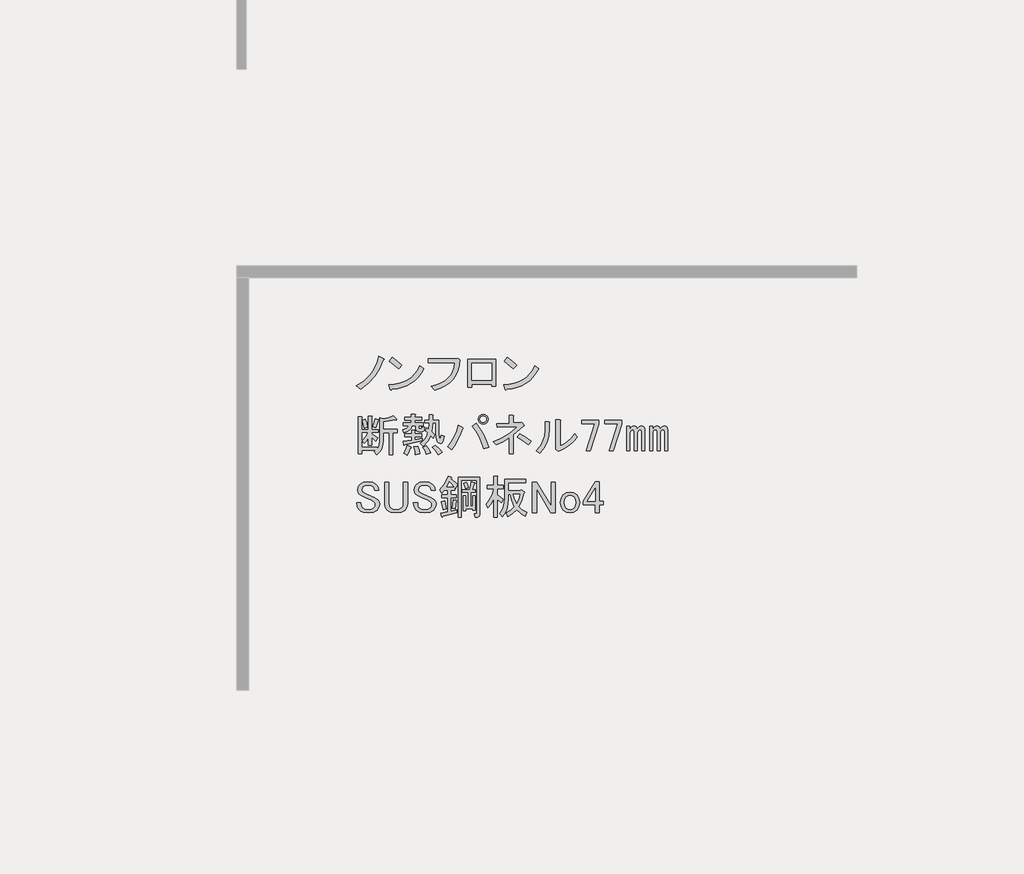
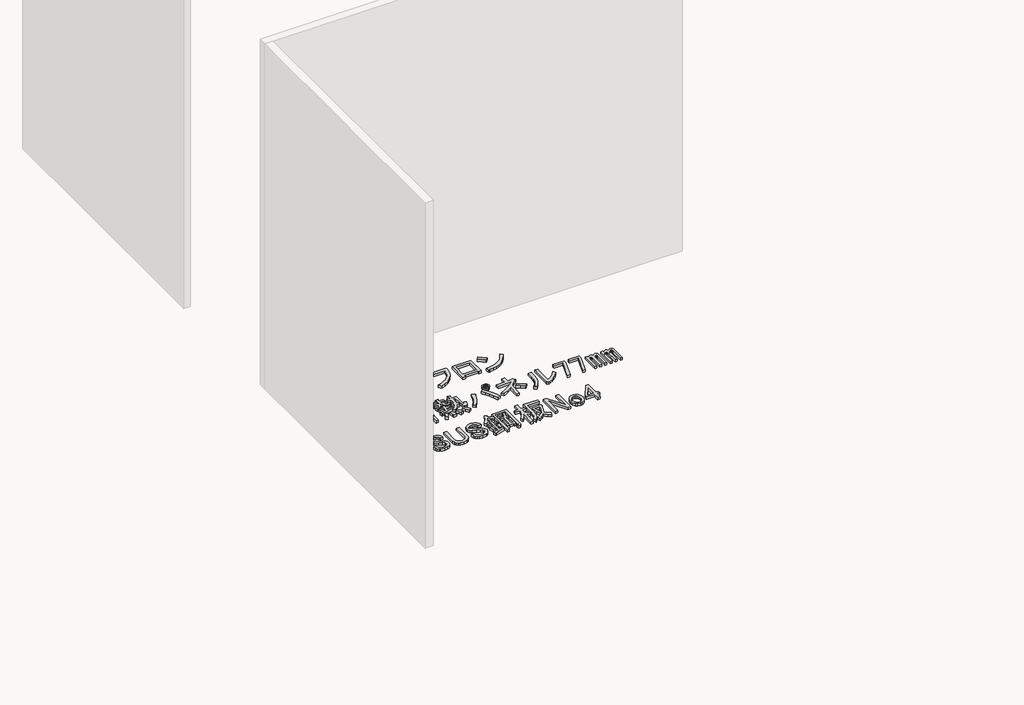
# One storey, part 49 of 117: 1 proxy.
"""IFC4 building model written with IfcOpenShell, lengths in millimetres."""

from ifc_helpers import new_model, si_unit, frame, origin, place, context, project, spatial, polyline, outline, extrude, element, save

model = new_model("IFC4")

# Units and contexts
model_context = context("Model", 3, world=origin())
ifc_project = project(units=[si_unit("LENGTHUNIT", "METRE", prefix="MILLI")], contexts=[model_context])

# Site, building, storey
site = spatial("IfcSite", under=ifc_project)
building = spatial("IfcBuilding", under=site)
storey = spatial("IfcBuildingStorey", under=building, Name="レベル 1", Elevation=500.0)

# Proxy
placement = place(None, origin())
element("IfcBuildingElementProxy", 1, Name="200㎜\u3000MS Pゴシック", ObjectType="200㎜\u3000MS Pゴシック", at=placement, inside=storey, context=model_context, shape_type="SweptSolid", body=[
    extrude(outline(polyline([(16943.6706985, -607.0496882), (16918.0952502, -666.8215225), (16889.646156, -712.7998566), (16847.9782907, -758.2034615), (16798.8389462, -795.560858), (16771.2519457, -773.7211493), (16818.9544673, -743.2605029), (16858.6107805, -704.7536481), (16875.9963381, -680.8305462), (16891.3703435, -652.7406577), (16904.7327969, -620.4839827), (16916.0836981, -584.0605212), (16947.1190736, -597.8540214), (16950.2800841, -602.4518548), (16943.6706985, -607.0496882)])), frame((0.0, 0.0, 500.0), z_axis=(0.0, 0.0, 1.0), x_axis=(1.0, 0.0, 0.0)), (0.0, 0.0, 1.0), 25.0),
    extrude(outline(polyline([(17043.3977052, -662.2236891), (16984.7753292, -615.0958967), (17004.3161212, -590.9572713), (17031.6157571, -610.7854279), (17065.2374138, -640.3839804), (17043.3977052, -662.2236891)])), frame((0.0, 0.0, 500.0), z_axis=(0.0, 0.0, 1.0), x_axis=(1.0, 0.0, 0.0)), (0.0, 0.0, 1.0), 25.0),
    extrude(outline(polyline([(17205.4713328, -662.2236891), (17188.947869, -691.965924), (17169.8381239, -717.9724192), (17148.1420975, -740.2431748), (17123.8597898, -758.7781907), (17096.9912008, -773.577467), (17067.5363306, -784.6410036), (17035.495179, -791.9688006), (17000.8677461, -795.560858), (16995.1204544, -803.6070664), (16989.3731626, -797.8597747), (16980.1774958, -767.9738575), (17016.0082679, -765.2977748), (17048.7857912, -758.9937141), (17078.5100658, -749.0616756), (17105.1810916, -735.5016591), (17128.7988687, -718.3136646), (17149.363397, -697.4976923), (17166.8746766, -673.053742), (17181.3327074, -644.9818138), (17205.4713328, -662.2236891)])), frame((0.0, 0.0, 500.0), z_axis=(0.0, 0.0, 1.0), x_axis=(1.0, 0.0, 0.0)), (0.0, 0.0, 1.0), 25.0),
    extrude(outline(polyline([(17256.2314136, -777.1695243), (17290.014713, -767.4889298), (17319.5234641, -755.1142922), (17344.757667, -740.0456116), (17365.7173217, -722.282888), (17382.402428, -701.8261214), (17394.8129862, -678.6753118), (17402.9489961, -652.8304591), (17406.8104577, -624.2915635), (17234.3917049, -624.2915635), (17234.3917049, -599.0034798), (17409.1093744, -599.0034798), (17425.2017914, -595.5551047), (17437.8458332, -607.0496882), (17434.325617, -643.5449909), (17426.0638851, -676.5919185), (17413.0606375, -706.1904711), (17395.3158742, -732.3406486), (17372.8295952, -755.042451), (17345.6018005, -774.2958784), (17313.6324901, -790.1009308), (17276.921664, -802.4576081), (17256.2314136, -777.1695243)])), frame((0.0, 0.0, 500.0), z_axis=(0.0, 0.0, 1.0), x_axis=(1.0, 0.0, 0.0)), (0.0, 0.0, 1.0), 25.0),
    extrude(outline(polyline([(17670.955987, -776.020066), (17644.5184449, -776.020066), (17644.5184449, -763.3760241), (17516.9285679, -763.3760241), (17516.9285679, -781.7673577), (17490.4910258, -781.7673577), (17490.4910258, -602.4518548), (17670.955987, -602.4518548), (17670.955987, -776.020066)]), holes=[polyline([(17516.9285679, -627.7399386), (17516.9285679, -738.0879404), (17644.5184449, -738.0879404), (17644.5184449, -627.7399386), (17516.9285679, -627.7399386)])]), frame((0.0, 0.0, 500.0), z_axis=(0.0, 0.0, 1.0), x_axis=(1.0, 0.0, 0.0)), (0.0, 0.0, 1.0), 25.0),
    extrude(outline(polyline([(17947.0099049, -662.2236891), (17930.4864411, -691.965924), (17911.376696, -717.9724192), (17889.6806696, -740.2431748), (17865.3983619, -758.7781907), (17838.5297729, -773.577467), (17809.0749026, -784.6410036), (17777.0337511, -791.9688006), (17742.4063182, -795.560858), (17736.6590264, -803.6070664), (17730.9117347, -797.8597747), (17721.7160679, -767.9738575), (17757.5468399, -765.2977748), (17790.3243633, -758.9937141), (17820.0486378, -749.0616756), (17846.7196637, -735.5016591), (17870.3374407, -718.3136646), (17890.9019691, -697.4976923), (17908.4132486, -673.053742), (17922.8712795, -644.9818138), (17947.0099049, -662.2236891)])), frame((0.0, 0.0, 500.0), z_axis=(0.0, 0.0, 1.0), x_axis=(1.0, 0.0, 0.0)), (0.0, 0.0, 1.0), 25.0),
    extrude(outline(polyline([(17784.9362772, -662.2236891), (17726.3139013, -615.0958967), (17745.8546933, -590.9572713), (17773.1543291, -610.7854279), (17806.7759859, -640.3839804), (17784.9362772, -662.2236891)])), frame((0.0, 0.0, 500.0), z_axis=(0.0, 0.0, 1.0), x_axis=(1.0, 0.0, 0.0)), (0.0, 0.0, 1.0), 25.0),
    extrude(outline(polyline([(16877.0021141, -1039.2345221), (16894.2439894, -986.3594379), (16914.9342397, -992.1067296), (16916.6584273, -995.2677401), (16912.635323, -997.8540214), (16895.3934477, -1046.1312722), (16877.0021141, -1039.2345221)])), frame((0.0, 0.0, 500.0), z_axis=(0.0, 0.0, 1.0), x_axis=(1.0, 0.0, 0.0)), (0.0, 0.0, 1.0), 25.0),
    extrude(outline(polyline([(17031.0295333, -990.9572713), (17029.3053458, -995.5551047), (17021.8338665, -993.256188), (16944.8201569, -1005.9002299), (16944.8201569, -1055.326939), (17036.7768251, -1055.326939), (17036.7768251, -1077.1666477), (17005.7414495, -1077.1666477), (17005.7414495, -1217.4005666), (16982.7522825, -1217.4005666), (16982.7522825, -1077.1666477), (16944.8201569, -1077.1666477), (16944.8201569, -1126.5933568), (16942.2338756, -1154.3958807), (16934.4750317, -1179.1810764), (16921.5436253, -1200.948944), (16903.4396562, -1219.6994833), (16886.1977809, -1200.1586914), (16896.5429061, -1190.9630245), (16806.8851546, -1190.9630245), (16806.8851546, -1212.8027332), (16783.8959876, -1212.8027332), (16783.8959876, -973.715396), (16805.7356963, -973.715396), (16810.6208943, -976.0143127), (16806.8851546, -980.6121461), (16806.8851546, -1056.4763974), (16849.4151137, -1056.4763974), (16849.4151137, -969.1175626), (16867.8064473, -969.1175626), (16872.6916453, -971.4164793), (16868.9559057, -976.0143127), (16868.9559057, -1056.4763974), (16912.635323, -1056.4763974), (16912.635323, -1074.867731), (16868.9559057, -1074.867731), (16868.9559057, -1084.0633978), (16909.186948, -1110.5009399), (16895.3934477, -1132.3406486), (16868.9559057, -1105.9031065), (16868.9559057, -1158.7781907), (16849.4151137, -1158.7781907), (16849.4151137, -1110.5009399), (16836.1963426, -1130.3290965), (16821.8281132, -1146.1341488), (16809.1840713, -1127.7428152), (16831.02378, -1103.6041898), (16848.2656553, -1074.867731), (16806.8851546, -1074.867731), (16806.8851546, -1169.1233159), (16904.5891146, -1169.1233159), (16904.5891146, -1182.9168161), (16917.520521, -1158.7781907), (16921.8309898, -1125.4438985), (16921.8309898, -980.6121461), (16943.6706985, -986.3594379), (16979.8786366, -978.8879586), (17010.339283, -965.6691875), (17031.0295333, -990.9572713)])), frame((0.0, 0.0, 500.0), z_axis=(0.0, 0.0, 1.0), x_axis=(1.0, 0.0, 0.0)), (0.0, 0.0, 1.0), 25.0),
    extrude(outline(polyline([(16822.9775716, -1047.2807305), (16810.3335297, -996.7045631), (16829.8743217, -989.8078129), (16837.6331656, -1013.9464383), (16842.5183636, -1040.3839804), (16822.9775716, -1047.2807305)])), frame((0.0, 0.0, 500.0), z_axis=(0.0, 0.0, 1.0), x_axis=(1.0, 0.0, 0.0)), (0.0, 0.0, 1.0), 25.0),
    extrude(outline(polyline([(17121.8367431, -1167.9738575), (17125.2851182, -1172.8590555), (17119.5378264, -1176.020066), (17109.7674304, -1201.5955143), (17098.8475761, -1220.8489417), (17075.858409, -1209.3543582), (17088.5024509, -1185.790462), (17098.8475761, -1158.7781907), (17121.8367431, -1167.9738575)])), frame((0.0, 0.0, 500.0), z_axis=(0.0, 0.0, 1.0), x_axis=(1.0, 0.0, 0.0)), (0.0, 0.0, 1.0), 25.0),
    extrude(outline(polyline([(17166.6656188, -1163.3760241), (17176.7233794, -1190.67566), (17181.6085774, -1212.8027332), (17152.8721186, -1218.550025), (17150.2858373, -1196.9976809), (17142.5269934, -1166.8243992), (17166.6656188, -1163.3760241)])), frame((0.0, 0.0, 500.0), z_axis=(0.0, 0.0, 1.0), x_axis=(1.0, 0.0, 0.0)), (0.0, 0.0, 1.0), 25.0),
    extrude(outline(polyline([(17281.611454, -1157.6287323), (17306.3248086, -1178.8937119), (17325.2908714, -1203.6070664), (17298.8533293, -1218.550025), (17279.5999019, -1188.9514724), (17260.9212037, -1169.1233159), (17281.611454, -1157.6287323)])), frame((0.0, 0.0, 500.0), z_axis=(0.0, 0.0, 1.0), x_axis=(1.0, 0.0, 0.0)), (0.0, 0.0, 1.0), 25.0),
    extrude(outline(polyline([(17222.9890781, -1216.2511083), (17214.655505, -1191.5377537), (17201.1493694, -1170.2727742), (17221.8396197, -1162.2265657), (17238.7941304, -1183.7789098), (17250.5760785, -1207.0554415), (17222.9890781, -1216.2511083)])), frame((0.0, 0.0, 500.0), z_axis=(0.0, 0.0, 1.0), x_axis=(1.0, 0.0, 0.0)), (0.0, 0.0, 1.0), 25.0),
    extrude(outline(polyline([(17083.9046175, -1153.0308989), (17081.8930654, -1157.9160969), (17078.1573257, -1156.479274), (17072.410034, -1132.3406486), (17127.5840349, -1124.2944401), (17127.5840349, -1101.3052731), (17083.9046175, -1101.3052731), (17083.9046175, -1082.9139395), (17127.5840349, -1082.9139395), (17127.5840349, -1059.9247724), (17145.9753685, -1059.9247724), (17150.8605665, -1062.2236891), (17147.1248268, -1066.8215225), (17147.1248268, -1082.9139395), (17191.9537026, -1082.9139395), (17191.9537026, -1101.3052731), (17147.1248268, -1101.3052731), (17147.1248268, -1120.8460651), (17197.7009943, -1111.6503983), (17197.7009943, -1127.7428152), (17083.9046175, -1153.0308989)])), frame((0.0, 0.0, 500.0), z_axis=(0.0, 0.0, 1.0), x_axis=(1.0, 0.0, 0.0)), (0.0, 0.0, 1.0), 25.0),
    extrude(outline(polyline([(17154.021577, -1031.1883136), (17128.7334932, -1031.1883136), (17124.1356598, -1048.6457123), (17113.7905346, -1061.9363245), (17097.6981177, -1071.0601502), (17075.858409, -1076.0171893), (17071.2605756, -1056.4763974), (17096.5486594, -1047.8554597), (17104.0201386, -1040.5276627), (17108.0432429, -1031.1883136), (17072.410034, -1031.1883136), (17072.410034, -1012.79698), (17126.4345765, -1012.79698), (17126.4345765, -995.5551047), (17082.7551591, -995.5551047), (17082.7551591, -977.1637711), (17126.4345765, -977.1637711), (17126.4345765, -958.7724374), (17148.2742852, -958.7724374), (17153.1594832, -961.0713541), (17149.4237436, -965.6691875), (17149.4237436, -977.1637711), (17191.9537026, -977.1637711), (17191.9537026, -995.5551047), (17149.4237436, -995.5551047), (17149.4237436, -1012.79698), (17202.2988277, -1012.79698), (17202.2988277, -1031.1883136), (17173.5623689, -1031.1883136), (17173.5623689, -1043.8323555), (17174.9991919, -1049.0049181), (17179.3096607, -1050.7291056), (17189.6547859, -1050.7291056), (17193.3905255, -1047.5680951), (17193.1031609, -1038.0850637), (17212.6439529, -1040.3839804), (17209.770307, -1061.9363245), (17204.4540622, -1067.3244106), (17196.551536, -1069.1204392), (17172.4129106, -1069.1204392), (17158.6194104, -1064.2352412), (17154.021577, -1049.5796472), (17154.021577, -1031.1883136)])), frame((0.0, 0.0, 500.0), z_axis=(0.0, 0.0, 1.0), x_axis=(1.0, 0.0, 0.0)), (0.0, 0.0, 1.0), 25.0),
    extrude(outline(polyline([(17285.0598291, -1013.9464383), (17263.2201204, -1013.9464383), (17258.622287, -1071.4193559), (17278.163079, -1089.8106896), (17267.8179538, -1111.6503983), (17251.7255369, -1095.5579813), (17232.4721095, -1133.2027424), (17202.2988277, -1165.6749408), (17185.0569525, -1144.9846905), (17200.1435933, -1133.0590601), (17213.2186821, -1117.9724192), (17224.2822187, -1099.7247679), (17233.3342033, -1078.316106), (17216.092328, -1063.3731475), (17224.1385364, -1046.1312722), (17237.9320367, -1056.4763974), (17240.2309534, -1013.9464383), (17212.6439529, -1013.9464383), (17212.6439529, -995.5551047), (17240.2309534, -995.5551047), (17240.2309534, -961.0713541), (17262.0706621, -961.0713541), (17266.95586, -963.3702708), (17263.2201204, -967.9681043), (17263.2201204, -995.5551047), (17304.6006211, -995.5551047), (17304.6006211, -1092.1096063), (17308.0489961, -1116.2482317), (17311.2818477, -1118.2597838), (17314.0836525, -1115.0987733), (17318.3941213, -1093.2590646), (17337.9349133, -1100.1558147), (17333.408921, -1126.9525626), (17325.578236, -1142.9731384), (17314.4428582, -1148.2175421), (17300.0027877, -1142.6857738), (17293.4652433, -1135.3579768), (17288.7955687, -1123.719711), (17285.0598291, -1087.5117729), (17285.0598291, -1013.9464383)])), frame((0.0, 0.0, 500.0), z_axis=(0.0, 0.0, 1.0), x_axis=(1.0, 0.0, 0.0)), (0.0, 0.0, 1.0), 25.0),
    extrude(outline(polyline([(17543.6879583, -1016.245355), (17570.3410238, -1052.9561812), (17592.8273029, -1090.6727833), (17611.1467953, -1129.3951616), (17625.2995013, -1169.1233159), (17594.2641258, -1179.468441), (17578.8182792, -1136.3637528), (17561.2171982, -1097.856898), (17541.4608827, -1063.9478766), (17519.5493329, -1034.6366887), (17543.6879583, -1016.245355)])), frame((0.0, 0.0, 500.0), z_axis=(0.0, 0.0, 1.0), x_axis=(1.0, 0.0, 0.0)), (0.0, 0.0, 1.0), 25.0),
    extrude(outline(polyline([(17456.3291235, -1042.6828971), (17460.3522278, -1048.1428243), (17454.0302068, -1053.0280223), (17442.1045764, -1088.4457078), (17427.0179356, -1122.282888), (17408.7702842, -1154.539563), (17387.3616224, -1185.2157328), (17360.9240803, -1167.9738575), (17384.1287708, -1136.5074351), (17403.1666748, -1103.0294606), (17418.0377922, -1067.539934), (17428.7421231, -1030.0388553), (17456.3291235, -1042.6828971)])), frame((0.0, 0.0, 500.0), z_axis=(0.0, 0.0, 1.0), x_axis=(1.0, 0.0, 0.0)), (0.0, 0.0, 1.0), 25.0),
    extrude(outline(polyline([(17589.6662924, -1021.9926468), (17577.0222505, -1019.6937301), (17566.6771253, -1012.79698), (17559.7803752, -1002.4518548), (17557.4814585, -989.8078129), (17559.7803752, -977.1637711), (17566.6771253, -966.8186459), (17577.0222505, -959.9218958), (17589.6662924, -957.6229791), (17602.3103343, -959.9218958), (17612.6554594, -966.8186459), (17619.5522095, -977.1637711), (17621.8511262, -989.8078129), (17619.5522095, -1002.4518548), (17612.6554594, -1012.79698), (17602.3103343, -1019.6937301), (17589.6662924, -1021.9926468)]), holes=[polyline([(17589.6662924, -1010.4980633), (17597.9998654, -1009.0612403), (17604.609251, -1004.7507715), (17608.9197198, -998.141386), (17610.3565427, -989.8078129), (17608.9197198, -981.4742399), (17604.609251, -974.8648544), (17597.9998654, -970.5543855), (17589.6662924, -969.1175626), (17581.3327193, -970.5543855), (17574.7233338, -974.8648544), (17570.412865, -981.4742399), (17568.976042, -989.8078129), (17570.412865, -998.141386), (17574.7233338, -1004.7507715), (17581.3327193, -1009.0612403), (17589.6662924, -1010.4980633)])]), frame((0.0, 0.0, 500.0), z_axis=(0.0, 0.0, 1.0), x_axis=(1.0, 0.0, 0.0)), (0.0, 0.0, 1.0), 25.0),
    extrude(outline(polyline([(17879.3297971, -1155.3298156), (17842.2597652, -1126.0186277), (17809.2128376, -1104.7536481), (17826.4547129, -1082.9139395), (17865.2489323, -1106.1904711), (17898.8705891, -1132.3406486), (17879.3297971, -1155.3298156)])), frame((0.0, 0.0, 500.0), z_axis=(0.0, 0.0, 1.0), x_axis=(1.0, 0.0, 0.0)), (0.0, 0.0, 1.0), 25.0),
    extrude(outline(polyline([(17833.351463, -1011.6475216), (17840.2482131, -1009.3486049), (17852.892255, -1026.5904802), (17854.0417134, -1032.6251366), (17848.2944216, -1034.6366887), (17785.0742122, -1090.9601479), (17785.0742122, -1211.6532749), (17758.6366701, -1211.6532749), (17758.6366701, -1109.3514816), (17718.4056278, -1133.4901069), (17673.5767521, -1155.3298156), (17654.0359601, -1134.6395653), (17699.5832473, -1115.1706145), (17740.8200657, -1092.3969709), (17777.7464152, -1066.3186345), (17810.362296, -1036.9356054), (17680.4735022, -1042.6828971), (17677.0251271, -1017.3948134), (17758.6366701, -1015.0958967), (17758.6366701, -963.3702708), (17781.6258372, -963.3702708), (17787.6604935, -966.8186459), (17785.0742122, -972.5659377), (17785.0742122, -1013.9464383), (17833.351463, -1011.6475216)])), frame((0.0, 0.0, 500.0), z_axis=(0.0, 0.0, 1.0), x_axis=(1.0, 0.0, 0.0)), (0.0, 0.0, 1.0), 25.0),
    extrude(outline(polyline([(17932.296838, -1193.2619413), (17957.4412394, -1164.0225944), (17975.4015262, -1131.4785548), (17986.1776982, -1095.6298225), (17989.7697556, -1056.4763974), (17989.7697556, -1004.7507715), (18013.908381, -1004.7507715), (18019.6556727, -1008.1991466), (18016.2072977, -1013.9464383), (18016.2072977, -1055.326939), (18012.3997169, -1101.0897496), (18000.9769745, -1141.82368), (17981.9390705, -1177.5287301), (17955.286005, -1208.2048998), (17932.296838, -1193.2619413)])), frame((0.0, 0.0, 500.0), z_axis=(0.0, 0.0, 1.0), x_axis=(1.0, 0.0, 0.0)), (0.0, 0.0, 1.0), 25.0),
    extrude(outline(polyline([(18086.3242571, -1162.2265657), (18111.1094529, -1150.0135708), (18134.8888725, -1132.9153778), (18157.6625161, -1110.9319868), (18179.4303837, -1084.0633978), (18195.5228006, -1105.9031065), (18172.246269, -1133.7056304), (18146.0960914, -1157.3413678), (18117.0722681, -1176.8103186), (18085.1747988, -1192.1124829), (18075.979132, -1196.7103163), (18057.5877983, -1182.9168161), (18059.886715, -1177.1695243), (18059.886715, -992.1067296), (18084.0253404, -992.1067296), (18089.7726322, -995.5551047), (18086.3242571, -1001.3023965), (18086.3242571, -1162.2265657)])), frame((0.0, 0.0, 500.0), z_axis=(0.0, 0.0, 1.0), x_axis=(1.0, 0.0, 0.0)), (0.0, 0.0, 1.0), 25.0),
    extrude(outline(polyline([(18227.7076344, -995.5551047), (18336.9061779, -995.5551047), (18336.9061779, -1020.8431884), (18281.732177, -1192.1124829), (18256.4440932, -1192.1124829), (18311.6180941, -1017.3948134), (18227.7076344, -1017.3948134), (18227.7076344, -995.5551047)])), frame((0.0, 0.0, 500.0), z_axis=(0.0, 0.0, 1.0), x_axis=(1.0, 0.0, 0.0)), (0.0, 0.0, 1.0), 25.0),
    extrude(outline(polyline([(18374.8383035, -995.5551047), (18484.0368469, -995.5551047), (18484.0368469, -1020.8431884), (18428.862846, -1192.1124829), (18403.5747623, -1192.1124829), (18458.7487632, -1017.3948134), (18374.8383035, -1017.3948134), (18374.8383035, -995.5551047)])), frame((0.0, 0.0, 500.0), z_axis=(0.0, 0.0, 1.0), x_axis=(1.0, 0.0, 0.0)), (0.0, 0.0, 1.0), 25.0),
    extrude(outline(polyline([(18758.7573931, -1032.337772), (18767.0909661, -1033.7745949), (18773.7003517, -1038.0850637), (18778.8729142, -1046.7060014), (18780.5971018, -1058.7753141), (18780.5971018, -1193.2619413), (18761.0563098, -1193.2619413), (18761.0563098, -1069.1204392), (18758.4700285, -1059.6374078), (18750.7111846, -1056.4763974), (18740.3660594, -1061.0742308), (18734.3314031, -1069.6951684), (18732.319851, -1079.4655644), (18732.319851, -1193.2619413), (18712.779059, -1193.2619413), (18712.779059, -1069.1204392), (18710.1927777, -1059.6374078), (18702.4339338, -1056.4763974), (18692.0888087, -1061.0742308), (18686.0541523, -1069.6951684), (18684.0426002, -1079.4655644), (18684.0426002, -1193.2619413), (18664.5018082, -1193.2619413), (18664.5018082, -1035.786147), (18684.0426002, -1035.786147), (18684.0426002, -1053.0280223), (18696.1119129, -1037.5103346), (18709.3306839, -1032.337772), (18718.5263508, -1033.7745949), (18725.4231009, -1038.0850637), (18732.319851, -1051.878564), (18745.2512574, -1037.22297), (18758.7573931, -1032.337772)])), frame((0.0, 0.0, 500.0), z_axis=(0.0, 0.0, 1.0), x_axis=(1.0, 0.0, 0.0)), (0.0, 0.0, 1.0), 25.0),
    extrude(outline(polyline([(18536.9119311, -1193.2619413), (18517.3711392, -1193.2619413), (18517.3711392, -1035.786147), (18536.9119311, -1035.786147), (18536.9119311, -1053.0280223), (18548.9812438, -1037.5103346), (18562.2000149, -1032.337772), (18571.3956817, -1033.7745949), (18578.2924318, -1038.0850637), (18585.1891819, -1051.878564), (18598.1205884, -1037.22297), (18611.626724, -1032.337772), (18619.9602971, -1033.7745949), (18626.5696826, -1038.0850637), (18631.7422452, -1046.7060014), (18633.4664327, -1058.7753141), (18633.4664327, -1193.2619413), (18613.9256407, -1193.2619413), (18613.9256407, -1069.1204392), (18611.3393594, -1059.6374078), (18603.5805156, -1056.4763974), (18593.2353904, -1061.0742308), (18587.200734, -1069.6951684), (18585.1891819, -1079.4655644), (18585.1891819, -1193.2619413), (18565.6483899, -1193.2619413), (18565.6483899, -1069.1204392), (18563.0621086, -1059.6374078), (18555.3032648, -1056.4763974), (18544.9581396, -1061.0742308), (18538.9234833, -1069.6951684), (18536.9119311, -1079.4655644), (18536.9119311, -1193.2619413)])), frame((0.0, 0.0, 500.0), z_axis=(0.0, 0.0, 1.0), x_axis=(1.0, 0.0, 0.0)), (0.0, 0.0, 1.0), 25.0),
    extrude(outline(polyline([(16779.2981542, -1447.2807305), (16783.3212584, -1426.8778448), (16795.3905711, -1409.3486049), (16815.7934569, -1397.2792922), (16844.8172803, -1393.256188), (16876.1400204, -1397.8540214), (16898.8418228, -1411.6475216), (16910.9111355, -1429.1767615), (16914.9342397, -1449.5796472), (16888.4966976, -1449.5796472), (16886.1977809, -1436.9356054), (16879.3010308, -1426.5904802), (16866.0822598, -1418.8316363), (16847.116197, -1416.245355), (16826.7133112, -1418.5442717), (16813.7819048, -1425.4410219), (16807.7472484, -1434.0619595), (16805.7356963, -1443.8323555), (16810.3335297, -1458.7753141), (16831.02378, -1470.2698976), (16890.7956143, -1496.7074397), (16908.0374896, -1508.2020232), (16917.520521, -1521.9955234), (16920.6815315, -1538.0879404), (16916.6584273, -1559.3529199), (16904.5891146, -1577.1695243), (16894.6031951, -1584.7128448), (16881.8873121, -1590.1009308), (16848.2656553, -1594.4113996), (16814.6439985, -1589.238837), (16801.0660217, -1582.7731338), (16789.6432794, -1573.7211493), (16778.4360604, -1555.3298156), (16774.7003208, -1530.0417319), (16801.1378629, -1530.0417319), (16803.4367796, -1547.8583363), (16810.3335297, -1559.927649), (16826.4259466, -1569.4106804), (16849.4151137, -1572.5716909), (16870.3927286, -1569.698045), (16885.0483226, -1561.0771074), (16891.9450727, -1551.8814406), (16894.2439894, -1542.6857738), (16892.5198019, -1533.2027424), (16887.3472393, -1525.4438985), (16868.9559057, -1513.949315), (16839.0699885, -1500.1558147), (16805.7356963, -1485.2128562), (16789.6432794, -1474.867731), (16781.8844355, -1462.7984183), (16779.2981542, -1447.2807305)])), frame((0.0, 0.0, 500.0), z_axis=(0.0, 0.0, 1.0), x_axis=(1.0, 0.0, 0.0)), (0.0, 0.0, 1.0), 25.0),
    extrude(outline(polyline([(16954.7054987, -1395.5551047), (16981.1430408, -1395.5551047), (16981.1430408, -1533.4901069), (16983.7293221, -1548.1457009), (16991.488166, -1559.927649), (17007.0058537, -1569.4106804), (17028.2708332, -1572.5716909), (17049.5358128, -1569.4106804), (17065.0535005, -1559.927649), (17072.8123444, -1548.1457009), (17075.3986257, -1533.4901069), (17075.3986257, -1395.5551047), (17101.8361678, -1395.5551047), (17101.8361678, -1534.6395653), (17097.8130635, -1557.6287323), (17085.7437508, -1576.020066), (17075.2549434, -1584.0662744), (17062.1798546, -1589.8135662), (17028.2708332, -1594.4113996), (16994.3618119, -1589.8135662), (16981.2867231, -1584.0662744), (16970.7979156, -1576.020066), (16958.7286029, -1557.6287323), (16954.7054987, -1534.6395653), (16954.7054987, -1395.5551047)])), frame((0.0, 0.0, 500.0), z_axis=(0.0, 0.0, 1.0), x_axis=(1.0, 0.0, 0.0)), (0.0, 0.0, 1.0), 25.0),
    extrude(outline(polyline([(17144.1822135, -1447.2807305), (17148.2053177, -1426.8778448), (17160.2746304, -1409.3486049), (17180.6775161, -1397.2792922), (17209.7013395, -1393.256188), (17241.0240796, -1397.8540214), (17263.7258821, -1411.6475216), (17275.7951948, -1429.1767615), (17279.818299, -1449.5796472), (17253.3807569, -1449.5796472), (17251.0818402, -1436.9356054), (17244.1850901, -1426.5904802), (17230.966319, -1418.8316363), (17212.0002562, -1416.245355), (17191.5973705, -1418.5442717), (17178.665964, -1425.4410219), (17172.6313077, -1434.0619595), (17170.6197556, -1443.8323555), (17175.217589, -1458.7753141), (17195.9078393, -1470.2698976), (17255.6796736, -1496.7074397), (17272.9215489, -1508.2020232), (17282.4045803, -1521.9955234), (17285.5655908, -1538.0879404), (17281.5424865, -1559.3529199), (17269.4731738, -1577.1695243), (17259.4872544, -1584.7128448), (17246.7713714, -1590.1009308), (17213.1497146, -1594.4113996), (17179.5280578, -1589.238837), (17165.950081, -1582.7731338), (17154.5273386, -1573.7211493), (17143.3201197, -1555.3298156), (17139.5843801, -1530.0417319), (17166.0219222, -1530.0417319), (17168.3208389, -1547.8583363), (17175.217589, -1559.927649), (17191.3100059, -1569.4106804), (17214.2991729, -1572.5716909), (17235.2767879, -1569.698045), (17249.9323819, -1561.0771074), (17256.829132, -1551.8814406), (17259.1280487, -1542.6857738), (17257.4038611, -1533.2027424), (17252.2312986, -1525.4438985), (17233.8399649, -1513.949315), (17203.9540478, -1500.1558147), (17170.6197556, -1485.2128562), (17154.5273386, -1474.867731), (17146.7684948, -1462.7984183), (17144.1822135, -1447.2807305)])), frame((0.0, 0.0, 500.0), z_axis=(0.0, 0.0, 1.0), x_axis=(1.0, 0.0, 0.0)), (0.0, 0.0, 1.0), 25.0),
    extrude(outline(polyline([(17417.2935179, -1513.949315), (17419.8797992, -1517.1103254), (17416.1440596, -1519.6966067), (17408.0978511, -1566.8243992), (17389.7065175, -1564.5254825), (17395.4538092, -1510.5009399), (17417.2935179, -1513.949315)])), frame((0.0, 0.0, 500.0), z_axis=(0.0, 0.0, 1.0), x_axis=(1.0, 0.0, 0.0)), (0.0, 0.0, 1.0), 25.0),
    extrude(outline(polyline([(17340.2798083, -1515.0987733), (17351.7743918, -1566.8243992), (17331.0841415, -1572.5716909), (17319.589558, -1520.8460651), (17340.2798083, -1515.0987733)])), frame((0.0, 0.0, 500.0), z_axis=(0.0, 0.0, 1.0), x_axis=(1.0, 0.0, 0.0)), (0.0, 0.0, 1.0), 25.0),
    extrude(outline(polyline([(17413.8451429, -1434.6366887), (17372.4646422, -1390.9572713), (17350.6249335, -1430.0388553), (17405.7989344, -1430.0388553), (17405.7989344, -1448.4301889), (17379.3613923, -1448.4301889), (17379.3613923, -1477.1666477), (17417.2935179, -1477.1666477), (17417.2935179, -1495.5579813), (17379.3613923, -1495.5579813), (17379.3613923, -1582.9168161), (17418.4429763, -1572.5716909), (17420.741893, -1592.1124829), (17328.7852248, -1617.4005666), (17326.4863081, -1623.1478584), (17321.8884747, -1619.6994833), (17314.9917246, -1596.7103163), (17359.8206003, -1587.5146495), (17359.8206003, -1495.5579813), (17321.8884747, -1495.5579813), (17321.8884747, -1477.1666477), (17359.8206003, -1477.1666477), (17359.8206003, -1448.4301889), (17337.9808916, -1448.4301889), (17323.037933, -1466.8215225), (17310.3938912, -1446.1312722), (17338.5556208, -1408.4865112), (17363.2689754, -1357.6229791), (17385.1086841, -1363.3702708), (17388.5570591, -1367.1060105), (17382.8097674, -1369.1175626), (17381.660309, -1372.5659377), (17426.4891847, -1410.4980633), (17413.8451429, -1434.6366887)])), frame((0.0, 0.0, 500.0), z_axis=(0.0, 0.0, 1.0), x_axis=(1.0, 0.0, 0.0)), (0.0, 0.0, 1.0), 25.0),
    extrude(outline(polyline([(17481.6631856, -1397.8540214), (17488.8473003, -1413.0843446), (17494.3072275, -1433.4872303), (17477.0653522, -1439.2345221), (17465.5707687, -1402.4518548), (17481.6631856, -1397.8540214)])), frame((0.0, 0.0, 500.0), z_axis=(0.0, 0.0, 1.0), x_axis=(1.0, 0.0, 0.0)), (0.0, 0.0, 1.0), 25.0),
    extrude(outline(polyline([(17534.5382698, -1399.0034798), (17537.1245511, -1402.4518548), (17531.0898948, -1405.9002299), (17518.4458529, -1443.8323555), (17539.1361032, -1443.8323555), (17539.1361032, -1462.2236891), (17508.1007277, -1462.2236891), (17508.1007277, -1550.7319822), (17523.0436863, -1550.7319822), (17523.0436863, -1482.9139395), (17539.1361032, -1482.9139395), (17539.1361032, -1577.1695243), (17523.0436863, -1577.1695243), (17523.0436863, -1569.1233159), (17477.0653522, -1569.1233159), (17477.0653522, -1581.7673577), (17460.9729353, -1581.7673577), (17460.9729353, -1485.2128562), (17477.0653522, -1485.2128562), (17477.0653522, -1550.7319822), (17492.0083108, -1550.7319822), (17492.0083108, -1462.2236891), (17456.3751019, -1462.2236891), (17456.3751019, -1443.8323555), (17502.353436, -1443.8323555), (17512.6985611, -1394.4056463), (17534.5382698, -1399.0034798)])), frame((0.0, 0.0, 500.0), z_axis=(0.0, 0.0, 1.0), x_axis=(1.0, 0.0, 0.0)), (0.0, 0.0, 1.0), 25.0),
    extrude(outline(polyline([(17428.7881014, -1365.6691875), (17569.0220204, -1365.6691875), (17569.0220204, -1605.9059831), (17565.2862807, -1617.1132021), (17554.0790618, -1620.8489417), (17537.9866449, -1620.8489417), (17533.3888115, -1599.009233), (17544.883395, -1599.009233), (17548.33177, -1597.8597747), (17549.4812284, -1594.4113996), (17549.4812284, -1384.0605212), (17448.3288934, -1384.0605212), (17448.3288934, -1623.1478584), (17428.7881014, -1623.1478584), (17428.7881014, -1365.6691875)])), frame((0.0, 0.0, 500.0), z_axis=(0.0, 0.0, 1.0), x_axis=(1.0, 0.0, 0.0)), (0.0, 0.0, 1.0), 25.0),
    extrude(outline(polyline([(17740.2913148, -1594.4113996), (17769.0277736, -1577.1695243), (17790.8674823, -1555.3298156), (17773.0508779, -1513.3745858), (17763.2804819, -1472.5688143), (17750.63644, -1472.5688143), (17750.63644, -1496.7074397), (17748.193841, -1538.4471461), (17740.866044, -1572.8590555), (17728.653049, -1599.9431679), (17711.554856, -1619.6994833), (17697.7613558, -1596.7103163), (17710.8364446, -1579.3247587), (17720.1757937, -1557.0540032), (17725.7794031, -1529.8980496), (17727.647273, -1497.856898), (17727.647273, -1377.1637711), (17864.4328169, -1377.1637711), (17864.4328169, -1399.0034798), (17750.63644, -1399.0034798), (17750.63644, -1450.7291056), (17829.9490663, -1450.7291056), (17835.6963581, -1444.9818138), (17855.23715, -1458.7753141), (17856.673973, -1462.5110537), (17851.788775, -1466.8215225), (17839.4320977, -1513.3745858), (17820.7533995, -1554.1803573), (17839.7194623, -1572.5716909), (17871.329567, -1590.9630245), (17862.1339002, -1615.1016499), (17834.2595351, -1599.009233), (17805.8104409, -1573.7211493), (17781.3844509, -1598.1471392), (17749.4869817, -1618.550025), (17740.2913148, -1594.4113996)]), holes=[polyline([(17785.1201906, -1472.5688143), (17793.166399, -1505.6157419), (17805.8104409, -1533.4901069), (17818.4544828, -1507.3399294), (17826.5006912, -1472.5688143), (17785.1201906, -1472.5688143)])]), frame((0.0, 0.0, 500.0), z_axis=(0.0, 0.0, 1.0), x_axis=(1.0, 0.0, 0.0)), (0.0, 0.0, 1.0), 25.0),
    extrude(outline(polyline([(17657.5303135, -1623.1478584), (17657.5303135, -1503.6041898), (17639.713709, -1537.8005758), (17620.7476462, -1559.927649), (17609.2530627, -1539.2373987), (17626.494938, -1516.5355963), (17640.2884382, -1492.1096063), (17650.6335634, -1465.9594288), (17657.5303135, -1438.0850637), (17616.1498128, -1438.0850637), (17616.1498128, -1416.245355), (17657.5303135, -1416.245355), (17657.5303135, -1356.4735207), (17679.3700222, -1356.4735207), (17684.2552202, -1358.7724374), (17680.5194805, -1363.3702708), (17680.5194805, -1416.245355), (17718.4516061, -1416.245355), (17718.4516061, -1438.0850637), (17680.5194805, -1438.0850637), (17680.5194805, -1478.316106), (17718.4516061, -1504.7536481), (17708.106481, -1527.7428152), (17680.5194805, -1504.7536481), (17680.5194805, -1623.1478584), (17657.5303135, -1623.1478584)])), frame((0.0, 0.0, 500.0), z_axis=(0.0, 0.0, 1.0), x_axis=(1.0, 0.0, 0.0)), (0.0, 0.0, 1.0), 25.0),
    extrude(outline(polyline([(17908.1122342, -1395.5551047), (17936.848693, -1395.5551047), (18028.8053612, -1550.7319822), (18028.8053612, -1395.5551047), (18055.2429033, -1395.5551047), (18055.2429033, -1592.1124829), (18026.5064445, -1592.1124829), (17934.5497763, -1436.9356054), (17934.5497763, -1592.1124829), (17908.1122342, -1592.1124829), (17908.1122342, -1395.5551047)])), frame((0.0, 0.0, 500.0), z_axis=(0.0, 0.0, 1.0), x_axis=(1.0, 0.0, 0.0)), (0.0, 0.0, 1.0), 25.0),
    extrude(outline(polyline([(18088.3932822, -1527.7428152), (18093.2784802, -1500.4431793), (18107.9340742, -1478.316106), (18127.1875015, -1465.3846996), (18150.4640332, -1461.0742308), (18173.7405648, -1465.3846996), (18192.9939922, -1478.316106), (18207.6495862, -1500.4431793), (18212.5347842, -1527.7428152), (18207.6495862, -1555.042451), (18192.9939922, -1577.1695243), (18173.7405648, -1590.1009308), (18150.4640332, -1594.4113996), (18127.1875015, -1590.1009308), (18107.9340742, -1577.1695243), (18093.2784802, -1555.042451), (18088.3932822, -1527.7428152)]), holes=[polyline([(18150.4640332, -1481.7644811), (18137.8199913, -1484.0633978), (18127.4748661, -1490.9601479), (18117.129741, -1507.0525648), (18113.6813659, -1527.7428152), (18116.8423764, -1548.1457009), (18126.3254078, -1563.3760241), (18137.5326267, -1571.134868), (18150.4640332, -1573.7211493), (18163.3954396, -1571.134868), (18174.6026586, -1563.3760241), (18184.08569, -1548.1457009), (18187.2467004, -1527.7428152), (18183.7983254, -1507.0525648), (18173.4532002, -1490.9601479), (18163.1080751, -1484.0633978), (18150.4640332, -1481.7644811)])]), frame((0.0, 0.0, 500.0), z_axis=(0.0, 0.0, 1.0), x_axis=(1.0, 0.0, 0.0)), (0.0, 0.0, 1.0), 25.0),
    extrude(outline(polyline([(18313.1813575, -1393.256188), (18339.6188996, -1393.256188), (18339.6188996, -1519.6966067), (18363.757525, -1519.6966067), (18363.757525, -1541.5363154), (18339.6188996, -1541.5363154), (18339.6188996, -1592.1124829), (18313.1813575, -1592.1124829), (18313.1813575, -1541.5363154), (18236.1676479, -1541.5363154), (18236.1676479, -1518.5471484), (18313.1813575, -1393.256188)]), holes=[polyline([(18313.1813575, -1435.786147), (18261.4557317, -1519.6966067), (18313.1813575, -1519.6966067), (18313.1813575, -1435.786147)])]), frame((0.0, 0.0, 500.0), z_axis=(0.0, 0.0, 1.0), x_axis=(1.0, 0.0, 0.0)), (0.0, 0.0, 1.0), 25.0),
])

save(model, "model.ifc")
